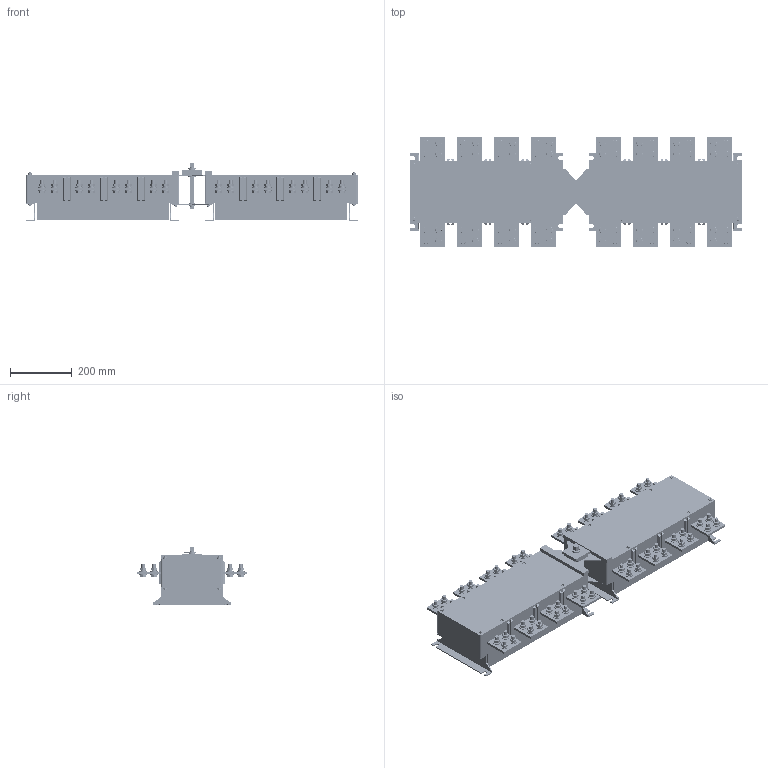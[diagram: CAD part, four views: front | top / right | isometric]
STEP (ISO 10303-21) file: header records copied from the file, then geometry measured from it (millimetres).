
FILE_DESCRIPTION((''),'2;1');
FILE_NAME('1600-4S_ASM','2021-05-07T',('wangpeng'),(''),'PRO/ENGINEER BY PARAMETRIC TECHNOLOGY CORPORATION, 2009460','PRO/ENGINEER BY PARAMETRIC TECHNOLOGY CORPORATION, 2009460','');
FILE_SCHEMA(('AUTOMOTIVE_DESIGN { 1 0 10303 214 1 1 1 1 }'));
Length unit declared in the file: millimetre
Products named in the file (23): SB-1600-4S; ZB-1600-4S; XB-1600-4S; CT-1600-4S; YB-1600-4S; ZCB-1600-4S; DB-1600-4S; DBX-1600-4S; ZCBX-1600-4S; LGM6; LMM6; 0LGM6; PDQ6; PDQ12; LSM12; TDQ12; LMM12; ZSJNH40; FKSNH40; ZSJTNH40; ZZ-1600-4S; DQM8; 1600-4S_ASM
Assembly tree (398 placements, depth 2):
  1600-4S_ASM
    SB-1600-4S  x2
    ZB-1600-4S  x2
    XB-1600-4S  x2
    CT-1600-4S  x8
    YB-1600-4S  x2
    ZCB-1600-4S
    DB-1600-4S  x2
    DBX-1600-4S  x2
    ZCBX-1600-4S
    LGM6  x8
    LMM6  x28
    0LGM6  x8
    PDQ6  x4
    PDQ12  x128
    LSM12  x64
    TDQ12  x64
    LMM12  x64
    ZSJNH40
    FKSNH40  x3
    ZSJTNH40
    ZZ-1600-4S
    DQM8  x2
Bounding box: 1075 x 356 x 189 mm (x, y, z)
Volume: 29411812.9 mm3; surface area: 2805506.1 mm2
Topology: 398 solids, 398 shells, 5624 faces, 12725 edges, 7988 vertices
Faces by surface type: plane 2661, cone 1488, cylinder 1475
Entity records: 25549 total; most frequent: CARTESIAN_POINT 4580, DIRECTION 3987, ORIENTED_EDGE 3260, EDGE_CURVE 1630, AXIS2_PLACEMENT_3D 1387, VECTOR 1213, LINE 1213, VERTEX_POINT 1077
